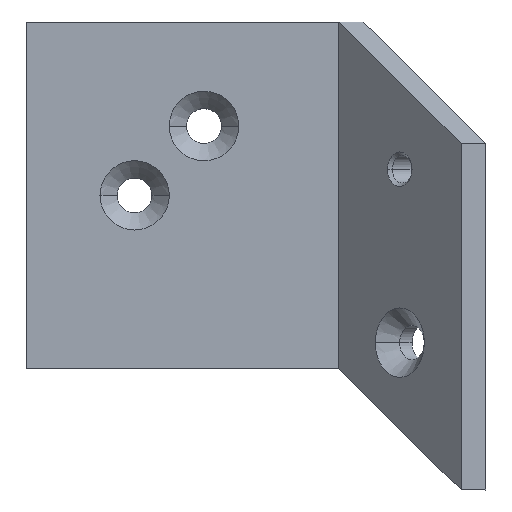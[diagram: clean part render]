
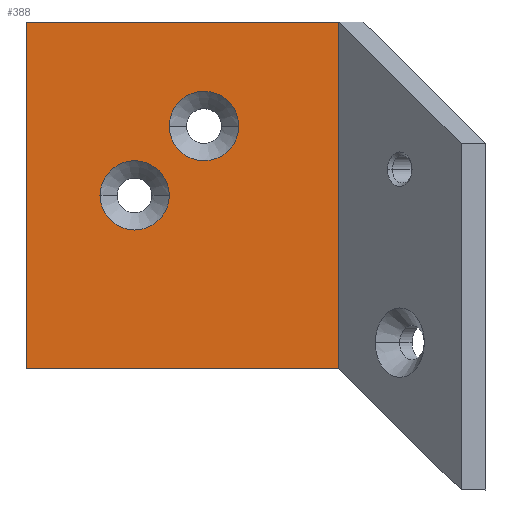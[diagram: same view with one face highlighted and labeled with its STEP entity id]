
A CAD part, top view. The second image highlights one B-rep face of the part: STEP entity #388.
In plain terms, the highlighted planar face has unit normal (0, 0, 1).
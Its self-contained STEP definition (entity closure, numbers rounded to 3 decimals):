
#4 = VERTEX_POINT ( 'NONE', #452 ) ;
#5 = VERTEX_POINT ( 'NONE', #413 ) ;
#9 = VERTEX_POINT ( 'NONE', #425 ) ;
#11 = VERTEX_POINT ( 'NONE', #456 ) ;
#24 = VERTEX_POINT ( 'NONE', #461 ) ;
#27 = VERTEX_POINT ( 'NONE', #433 ) ;
#31 = VERTEX_POINT ( 'NONE', #426 ) ;
#34 = VERTEX_POINT ( 'NONE', #427 ) ;
#68 = ORIENTED_EDGE ( 'NONE', *, *, #808, .T. ) ;
#73 = ORIENTED_EDGE ( 'NONE', *, *, #740, .T. ) ;
#74 = ORIENTED_EDGE ( 'NONE', *, *, #784, .T. ) ;
#81 = ORIENTED_EDGE ( 'NONE', *, *, #757, .T. ) ;
#100 = ORIENTED_EDGE ( 'NONE', *, *, #755, .T. ) ;
#105 = ORIENTED_EDGE ( 'NONE', *, *, #751, .T. ) ;
#109 = ORIENTED_EDGE ( 'NONE', *, *, #758, .T. ) ;
#127 = ORIENTED_EDGE ( 'NONE', *, *, #782, .T. ) ;
#175 = EDGE_LOOP ( 'NONE', ( #109, #100, #74, #127 ) ) ;
#177 = FACE_BOUND ( 'NONE', #186, .T. ) ;
#186 = EDGE_LOOP ( 'NONE', ( #105, #68 ) ) ;
#187 = EDGE_LOOP ( 'NONE', ( #73, #81 ) ) ;
#202 = FACE_BOUND ( 'NONE', #187, .T. ) ;
#218 = FACE_OUTER_BOUND ( 'NONE', #175, .T. ) ;
#261 = CIRCLE ( 'NONE', #816, 2. ) ;
#269 = CIRCLE ( 'NONE', #833, 2. ) ;
#316 = LINE ( 'NONE', #645, #334 ) ;
#318 = LINE ( 'NONE', #677, #322 ) ;
#319 = CIRCLE ( 'NONE', #864, 2. ) ;
#322 = VECTOR ( 'NONE', #668, 1000. ) ;
#328 = LINE ( 'NONE', #576, #329 ) ;
#329 = VECTOR ( 'NONE', #573, 1000. ) ;
#334 = VECTOR ( 'NONE', #666, 1000. ) ;
#341 = LINE ( 'NONE', #577, #343 ) ;
#343 = VECTOR ( 'NONE', #594, 1000. ) ;
#382 = CIRCLE ( 'NONE', #860, 2. ) ;
#388 = ADVANCED_FACE ( 'NONE', ( #177, #202, #218 ), #445, .T. ) ;
#413 = CARTESIAN_POINT ( 'NONE',  ( -9., 10., 2. ) ) ;
#425 = CARTESIAN_POINT ( 'NONE',  ( -0.757, 4., 2. ) ) ;
#426 = CARTESIAN_POINT ( 'NONE',  ( 3.243, 4., 2. ) ) ;
#427 = CARTESIAN_POINT ( 'NONE',  ( 9., -10., 2. ) ) ;
#433 = CARTESIAN_POINT ( 'NONE',  ( -9., -10., 2. ) ) ;
#445 = PLANE ( 'NONE',  #788 ) ;
#452 = CARTESIAN_POINT ( 'NONE',  ( 9., 10., 2. ) ) ;
#455 = CARTESIAN_POINT ( 'NONE',  ( 0., 0., 2. ) ) ;
#456 = CARTESIAN_POINT ( 'NONE',  ( -0.757, 0., 2. ) ) ;
#461 = CARTESIAN_POINT ( 'NONE',  ( -4.757, 0., 2. ) ) ;
#467 = DIRECTION ( 'NONE',  ( 1., 0., 0. ) ) ;
#473 = DIRECTION ( 'NONE',  ( 0., 0., 1. ) ) ;
#524 = CARTESIAN_POINT ( 'NONE',  ( -2.757, 0., 2. ) ) ;
#536 = DIRECTION ( 'NONE',  ( 0., 0., -1. ) ) ;
#537 = DIRECTION ( 'NONE',  ( 1., 0., 0. ) ) ;
#563 = CARTESIAN_POINT ( 'NONE',  ( 1.243, 4., 2. ) ) ;
#573 = DIRECTION ( 'NONE',  ( -1., 0., 0. ) ) ;
#576 = CARTESIAN_POINT ( 'NONE',  ( -9., 10., 2. ) ) ;
#577 = CARTESIAN_POINT ( 'NONE',  ( 9., 10., 2. ) ) ;
#590 = DIRECTION ( 'NONE',  ( 0., 0., -1. ) ) ;
#593 = DIRECTION ( 'NONE',  ( 1., 0., 0. ) ) ;
#594 = DIRECTION ( 'NONE',  ( 0., 1., 0. ) ) ;
#601 = DIRECTION ( 'NONE',  ( 0., 0., -1. ) ) ;
#608 = DIRECTION ( 'NONE',  ( 1., 0., 0. ) ) ;
#622 = CARTESIAN_POINT ( 'NONE',  ( -2.757, 0., 2. ) ) ;
#645 = CARTESIAN_POINT ( 'NONE',  ( -9., -10., 2. ) ) ;
#666 = DIRECTION ( 'NONE',  ( 1., 0., 0. ) ) ;
#668 = DIRECTION ( 'NONE',  ( 0., -1., 0. ) ) ;
#677 = CARTESIAN_POINT ( 'NONE',  ( -9., 10., 2. ) ) ;
#692 = DIRECTION ( 'NONE',  ( 0., 0., -1. ) ) ;
#708 = CARTESIAN_POINT ( 'NONE',  ( 1.243, 4., 2. ) ) ;
#713 = DIRECTION ( 'NONE',  ( 1., 0., 0. ) ) ;
#740 = EDGE_CURVE ( 'NONE', #11, #24, #269, .T. ) ;
#751 = EDGE_CURVE ( 'NONE', #31, #9, #261, .T. ) ;
#755 = EDGE_CURVE ( 'NONE', #4, #5, #328, .T. ) ;
#757 = EDGE_CURVE ( 'NONE', #24, #11, #319, .T. ) ;
#758 = EDGE_CURVE ( 'NONE', #34, #4, #341, .T. ) ;
#782 = EDGE_CURVE ( 'NONE', #27, #34, #316, .T. ) ;
#784 = EDGE_CURVE ( 'NONE', #5, #27, #318, .T. ) ;
#788 = AXIS2_PLACEMENT_3D ( 'NONE', #455, #473, #467 ) ;
#808 = EDGE_CURVE ( 'NONE', #9, #31, #382, .T. ) ;
#816 = AXIS2_PLACEMENT_3D ( 'NONE', #563, #590, #593 ) ;
#833 = AXIS2_PLACEMENT_3D ( 'NONE', #524, #536, #537 ) ;
#860 = AXIS2_PLACEMENT_3D ( 'NONE', #708, #692, #713 ) ;
#864 = AXIS2_PLACEMENT_3D ( 'NONE', #622, #601, #608 ) ;
